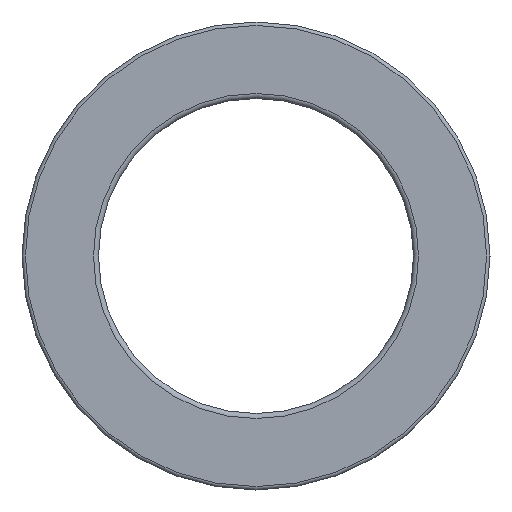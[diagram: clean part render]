
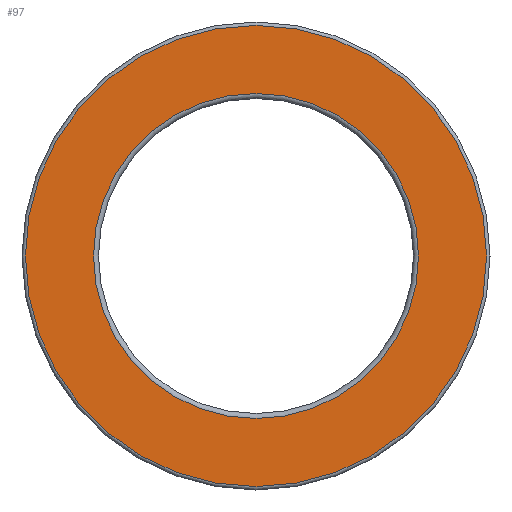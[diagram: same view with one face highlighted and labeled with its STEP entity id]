
A CAD part, left-side view. The second image highlights one B-rep face of the part: STEP entity #97.
In plain terms, the highlighted planar face has unit normal (-1, 0, 0).
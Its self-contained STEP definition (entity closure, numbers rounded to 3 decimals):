
#97=ADVANCED_FACE('',(#166,#167),#168,.F.);
#166=FACE_BOUND('',#238,.T.);
#167=FACE_OUTER_BOUND('',#239,.T.);
#168=PLANE('',#240);
#238=EDGE_LOOP('',(#354));
#239=EDGE_LOOP('',(#355));
#240=AXIS2_PLACEMENT_3D('',#356,#357,#358);
#354=ORIENTED_EDGE('',*,*,#386,.F.);
#355=ORIENTED_EDGE('',*,*,#387,.T.);
#356=CARTESIAN_POINT('',(0.0,25.619,0.0));
#357=DIRECTION('',(1.0,0.0,0.0));
#358=DIRECTION('',(0.0,0.0,-1.0));
#386=EDGE_CURVE('',#432,#432,#433,.T.);
#387=EDGE_CURVE('',#434,#434,#435,.T.);
#432=VERTEX_POINT('',#480);
#433=CIRCLE('',#481,18.058);
#434=VERTEX_POINT('',#482);
#435=CIRCLE('',#483,25.619);
#480=CARTESIAN_POINT('',(0.0,0.0,18.058));
#481=AXIS2_PLACEMENT_3D('',#550,#551,#552);
#482=CARTESIAN_POINT('',(0.0,0.0,25.619));
#483=AXIS2_PLACEMENT_3D('',#553,#554,#555);
#550=CARTESIAN_POINT('',(0.0,0.0,0.0));
#551=DIRECTION('',(-1.0,0.0,0.0));
#552=DIRECTION('',(0.0,0.0,1.0));
#553=CARTESIAN_POINT('',(0.0,0.0,0.0));
#554=DIRECTION('',(-1.0,0.0,0.0));
#555=DIRECTION('',(0.0,0.0,1.0));
